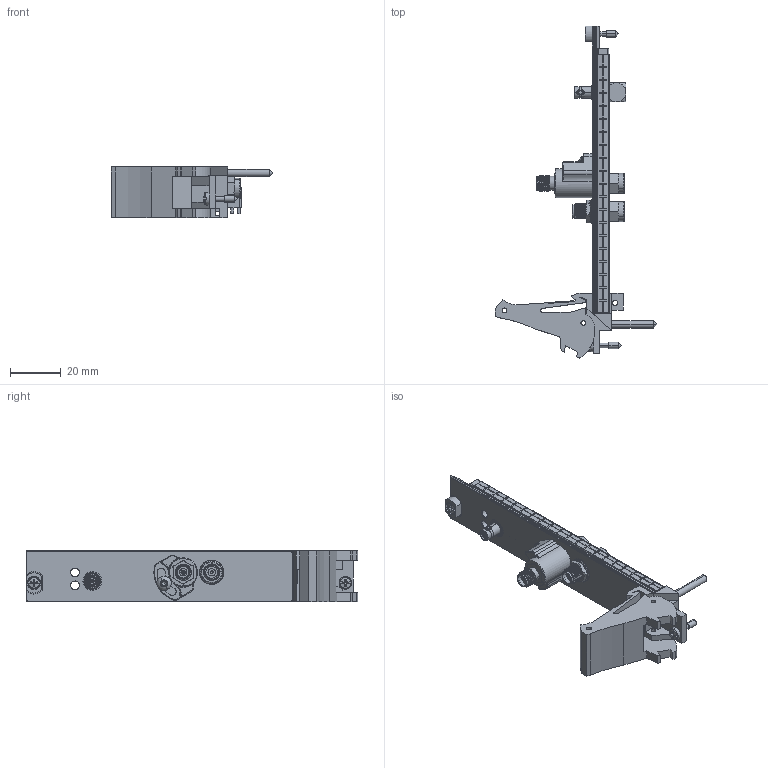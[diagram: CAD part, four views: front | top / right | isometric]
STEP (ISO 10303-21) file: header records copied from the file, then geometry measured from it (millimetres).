
FILE_DESCRIPTION((''),'2;1');
FILE_NAME('CU_PXIE-5698','2017-06-01T',('jjorden'),(''),'CREO PARAMETRIC BY PTC INC, 2015380','CREO PARAMETRIC BY PTC INC, 2015380','');
FILE_SCHEMA(('CONFIG_CONTROL_DESIGN'));
Length unit declared in the file: inch
Products named in the file (1): CU_PXIE-5698
Bounding box: 63.53 x 130.5 x 20.31 mm (x, y, z)
Surface area: 21405 mm2
Topology: 5 solids, 16 shells, 1702 faces, 5237 edges, 3485 vertices
Faces by surface type: plane 694, cylinder 488, cone 329, bspline 122, torus 56, sphere 6, extrusion 6, revolution 1
Entity records: 101625 total; most frequent: CARTESIAN_POINT 57069, ORIENTED_EDGE 10157, DIRECTION 8153, EDGE_CURVE 5221, VERTEX_POINT 3485, AXIS2_PLACEMENT_3D 3035, VECTOR 2082, LINE 2076
